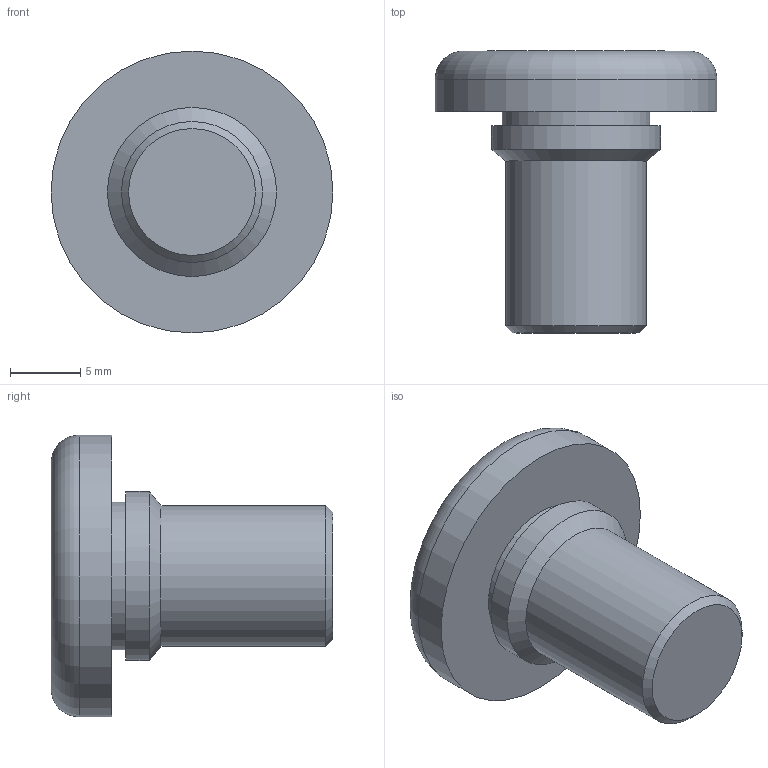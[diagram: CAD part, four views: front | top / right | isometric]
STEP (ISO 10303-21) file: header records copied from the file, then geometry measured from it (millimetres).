
FILE_DESCRIPTION(/* description */ (''),/* implementation_level */ '2;1');
FILE_NAME(/* name */ 'C:\Users\keval.kumar\Desktop\Fastit\Press Screw\M10\Press Screw_M10 x20.stp',/* time_stamp */ '2024-03-12T17:50:56+05:00',/* author */ ('keval.kumar'),/* organization */ (''),/* preprocessor_version */ 'ST-DEVELOPER v18.1',/* originating_system */ 'Autodesk Inventor 2022',/* authorisation */ '');
FILE_SCHEMA (('AUTOMOTIVE_DESIGN { 1 0 10303 214 3 1 1 }'));
Length unit declared in the file: millimetre
Products named in the file (1): Press Screw_M10 x20
Bounding box: 20 x 20 x 20 mm (x, y, z)
Volume: 2608.1 mm3; surface area: 1375.7 mm2
Topology: 1 solids, 1 shells, 11 faces, 19 edges, 12 vertices
Faces by surface type: cylinder 4, plane 4, cone 2, torus 1
Full cylindrical faces by diameter (mm): 10 x1, 10.5 x1, 12 x1, 20 x1
Entity records: 313 total; most frequent: DIRECTION 56, CARTESIAN_POINT 43, ORIENTED_EDGE 38, AXIS2_PLACEMENT_3D 25, EDGE_CURVE 19, EDGE_LOOP 13, CIRCLE 13, VERTEX_POINT 12
